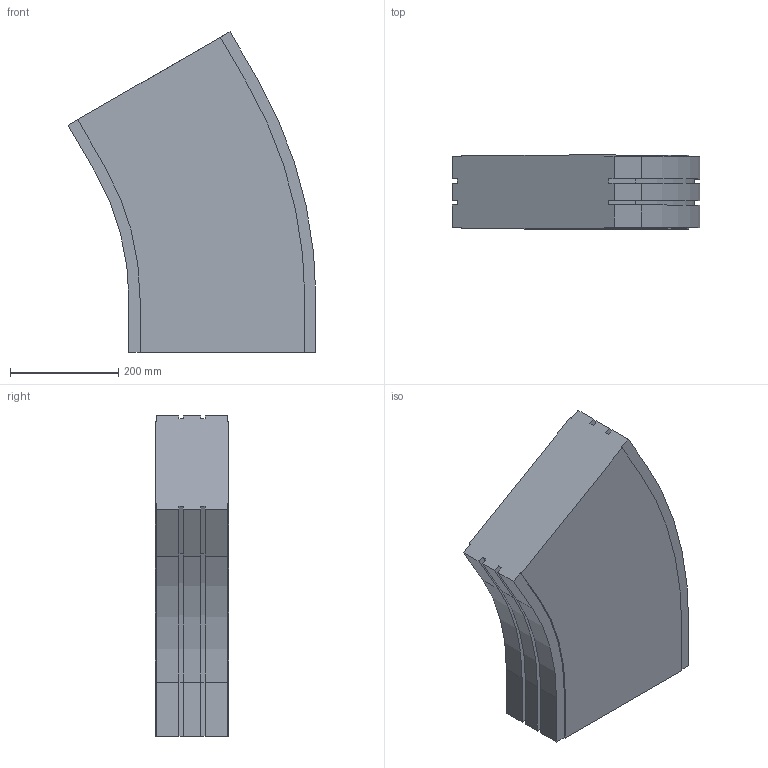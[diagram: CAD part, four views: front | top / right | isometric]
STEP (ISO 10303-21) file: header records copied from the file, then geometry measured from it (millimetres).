
FILE_DESCRIPTION (( 'STEP AP214' ), '1' );
FILE_NAME ('02.150H30.350.N FS-MTC-150 Bocht horizontaal 30°.STEP', '2013-03-21T10:43:58', ( 'Gebruiker' ), ( '' ), 'SwSTEP 2.0', 'SolidWorks 2012', '' );
FILE_SCHEMA (( 'AUTOMOTIVE_DESIGN' ));
Length unit declared in the file: millimetre
Products named in the file (1): 02.150H30.350.N FS-MTC-150 Bocht horizontaal 30°
Bounding box: 458.57 x 136 x 593.1 mm (x, y, z)
Volume: 24869457.1 mm3; surface area: 655880.6 mm2
Topology: 1 solids, 1 shells, 58 faces, 168 edges, 112 vertices
Faces by surface type: plane 44, cylinder 14
Entity records: 1934 total; most frequent: CARTESIAN_POINT 339, ORIENTED_EDGE 336, DIRECTION 314, EDGE_CURVE 168, LINE 140, VECTOR 140, VERTEX_POINT 112, AXIS2_PLACEMENT_3D 87
